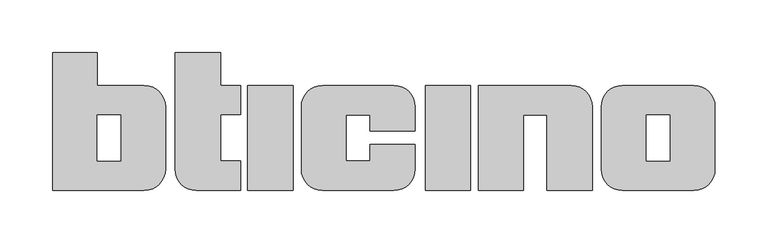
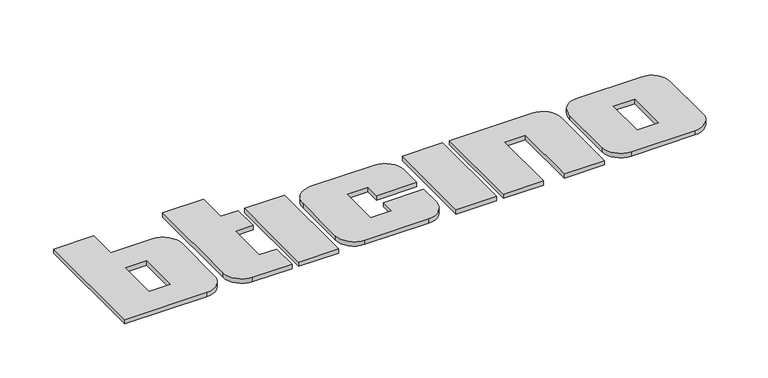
"""IFC4 building model written with IfcOpenShell, lengths in millimetres: proxy geometry, BTicino_Logo : BTicino_Logo."""

from ifc_helpers import new_model, si_unit, point, frame_2d, origin, origin_with_axes, place, context, project, spatial, polyline, circle_curve, trimmed, segment, composite_curve, outline, extrude, source, transform, mapped, element, save


def entourage_12fd8e5f(model_context):
    return source(origin(), model_context, "Body", "SweptSolid", [
        extrude(outline(composite_curve([segment(trimmed(circle_curve(frame_2d((10.3721671, 80.0)), 20.0), [point((10.3721671, 100.0))], [point((30.3721671, 80.0))], False, "CARTESIAN"), True, "CONTINUOUS"), segment(polyline([(30.3721671, 80.0), (30.3721671, 56.7160064), (-12.695837, 56.7160064), (-12.695837, 72.0185724), (-35.253234, 72.0185724), (-35.253234, 28.1736664), (-12.695837, 28.1736664), (-12.695837, 43.8016886), (30.3721671, 43.8016886), (30.3721671, 20.0)]), True, "CONTINUOUS"), segment(trimmed(circle_curve(frame_2d((10.3721671, 20.0)), 20.0), [point((30.3721671, 20.0))], [point((10.3721671, 0.0))], False, "CARTESIAN"), True, "CONTINUOUS"), segment(polyline([(10.3721671, 0.0), (-58.0022499, 0.0)]), True, "CONTINUOUS"), segment(trimmed(circle_curve(frame_2d((-58.0022499, 20.0)), 20.0), [point((-58.0022499, 0.0))], [point((-78.0022499, 20.0))], False, "CARTESIAN"), True, "CONTINUOUS"), segment(polyline([(-78.0022499, 20.0), (-78.0022499, 80.0)]), True, "CONTINUOUS"), segment(trimmed(circle_curve(frame_2d((-58.0022499, 80.0)), 20.0), [point((-78.0022499, 80.0))], [point((-58.0022499, 100.0))], False, "CARTESIAN"), True, "CONTINUOUS"), segment(polyline([(-58.0022499, 100.0), (10.3721671, 100.0)]), True, "CONTINUOUS")], self_intersect=False)), origin_with_axes(), (0.0, 0.0, 1.0), 5.0),
        extrude(outline(composite_curve([segment(trimmed(circle_curve(frame_2d((179.0158107, 80.0)), 20.0), [point((179.0158107, 100.0))], [point((199.0158107, 80.0))], False, "CARTESIAN"), True, "CONTINUOUS"), segment(polyline([(199.0158107, 80.0), (199.0158107, 0.0), (155.9478065, 0.0), (155.9478065, 72.0185724), (133.3904095, 72.0185724), (133.3904095, 0.0), (90.6413937, 0.0), (90.6413937, 100.0), (179.0158107, 100.0)]), True, "CONTINUOUS")], self_intersect=False)), origin_with_axes(), (0.0, 0.0, 1.0), 5.0),
        extrude(outline(composite_curve([segment(trimmed(circle_curve(frame_2d((295.985189, 80.0)), 20.0), [point((295.985189, 100.0))], [point((315.985189, 80.0))], False, "CARTESIAN"), True, "CONTINUOUS"), segment(polyline([(315.985189, 80.0), (315.985189, 20.0)]), True, "CONTINUOUS"), segment(trimmed(circle_curve(frame_2d((295.985189, 20.0)), 20.0), [point((315.985189, 20.0))], [point((295.985189, 0.0))], False, "CARTESIAN"), True, "CONTINUOUS"), segment(polyline([(295.985189, 0.0), (227.610772, 0.0)]), True, "CONTINUOUS"), segment(trimmed(circle_curve(frame_2d((227.610772, 20.0)), 20.0), [point((227.610772, 0.0))], [point((207.610772, 20.0))], False, "CARTESIAN"), True, "CONTINUOUS"), segment(polyline([(207.610772, 20.0), (207.610772, 80.0)]), True, "CONTINUOUS"), segment(trimmed(circle_curve(frame_2d((227.610772, 80.0)), 20.0), [point((207.610772, 80.0))], [point((227.610772, 100.0))], False, "CARTESIAN"), True, "CONTINUOUS"), segment(polyline([(227.610772, 100.0), (295.985189, 100.0)]), True, "CONTINUOUS")], self_intersect=False), holes=[polyline([(272.9171848, 72.0185724), (250.3597878, 72.0185724), (250.3597878, 28.1736664), (272.9171848, 28.1736664), (272.9171848, 72.0185724)])]), origin_with_axes(), (0.0, 0.0, 1.0), 5.0),
        extrude(outline(polyline([(83.1879739, 100.0), (83.1879739, 0.0), (40.1237258, 0.0), (40.1237258, 100.0), (83.1879739, 100.0)])), origin_with_axes(), (0.0, 0.0, 1.0), 5.0),
        extrude(outline(polyline([(-85.9678759, 100.0), (-85.9678759, 0.0), (-129.0321241, 0.0), (-129.0321241, 100.0), (-85.9678759, 100.0)])), origin_with_axes(), (0.0, 0.0, 1.0), 5.0),
        extrude(outline(composite_curve([segment(polyline([(-198.3262147, 20.0), (-198.3262147, 131.5729828), (-154.7582739, 131.5729828), (-154.7582739, 100.0), (-136.0082739, 100.0), (-136.0082739, 72.225294), (-154.7582739, 72.225294), (-154.7582739, 28.0935227), (-136.0082739, 28.0935227), (-136.0082739, 0.0), (-178.3262147, 0.0)]), True, "CONTINUOUS"), segment(trimmed(circle_curve(frame_2d((-178.3262147, 20.0)), 20.0), [point((-178.3262147, 0.0))], [point((-198.3262147, 20.0))], False, "CARTESIAN"), True, "CONTINUOUS")], self_intersect=False)), origin_with_axes(), (0.0, 0.0, 1.0), 5.0),
        extrude(outline(composite_curve([segment(polyline([(-315.0178055, 0.0), (-315.0178055, 131.5729828), (-272.5132781, 131.5729828), (-272.5132781, 100.0), (-227.4821945, 100.0)]), True, "CONTINUOUS"), segment(trimmed(circle_curve(frame_2d((-227.4821945, 80.0)), 20.0), [point((-227.4821945, 100.0))], [point((-207.4821945, 80.0))], False, "CARTESIAN"), True, "CONTINUOUS"), segment(polyline([(-207.4821945, 80.0), (-207.4821945, 20.0)]), True, "CONTINUOUS"), segment(trimmed(circle_curve(frame_2d((-227.4821945, 20.0)), 20.0), [point((-207.4821945, 20.0))], [point((-227.4821945, 0.0))], False, "CARTESIAN"), True, "CONTINUOUS"), segment(polyline([(-227.4821945, 0.0), (-315.0178055, 0.0)]), True, "CONTINUOUS")], self_intersect=False), holes=[polyline([(-249.955881, 72.0185724), (-272.5132781, 72.0185724), (-272.5132781, 28.1736664), (-249.955881, 28.1736664), (-249.955881, 72.0185724)])]), origin_with_axes(), (0.0, 0.0, 1.0), 5.0),
    ])


if __name__ == "__main__":
    model = new_model("IFC4")
    model_context = context("Model", 3, world=origin())
    ifc_project = project(units=[si_unit("LENGTHUNIT", "METRE", prefix="MILLI")], contexts=[model_context])
    site = spatial("IfcSite", under=ifc_project)
    building = spatial("IfcBuilding", under=site)
    placement = place(None, origin())
    entourage_shape = entourage_12fd8e5f(model_context)
    element("IfcBuildingElementProxy", 1, Name="BTicino_Logo : BTicino_Logo", ObjectType="BTicino_Logo : BTicino_Logo", at=placement, inside=building, context=model_context, shape_type="MappedRepresentation", body=[
        mapped(entourage_shape, transform((0.0, 0.0, 0.0), x_axis=(1.0, 0.0, 0.0), y_axis=(0.0, 1.0, 0.0), z_axis=(0.0, 0.0, 1.0))),
    ])
    save(model, "model.ifc")
